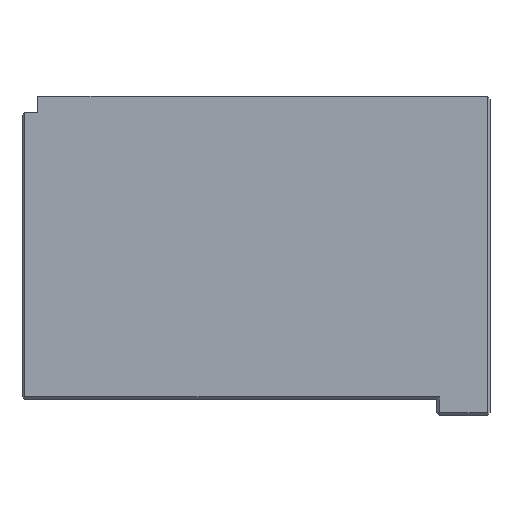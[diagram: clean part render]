
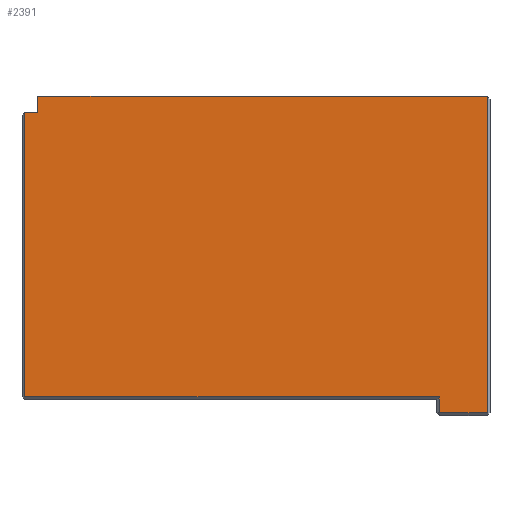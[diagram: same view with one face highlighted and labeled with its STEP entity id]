
A CAD part, front view. The second image highlights one B-rep face of the part: STEP entity #2391.
In plain terms, the highlighted planar face has unit normal (0, -1, 0).
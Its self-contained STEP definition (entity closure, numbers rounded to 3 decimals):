
#100 = LINE ( 'NONE', #4932, #5109 ) ;
#120 = VECTOR ( 'NONE', #1630, 1000. ) ;
#203 = LINE ( 'NONE', #1818, #120 ) ;
#285 = CARTESIAN_POINT ( 'NONE',  ( -42.5, -35., 30. ) ) ;
#320 = VECTOR ( 'NONE', #4150, 1000. ) ;
#454 = LINE ( 'NONE', #2699, #320 ) ;
#748 = VECTOR ( 'NONE', #2327, 1000. ) ;
#863 = LINE ( 'NONE', #2310, #748 ) ;
#1240 = VERTEX_POINT ( 'NONE', #3944 ) ;
#1248 = VECTOR ( 'NONE', #2724, 1000. ) ;
#1305 = VECTOR ( 'NONE', #2827, 1000. ) ;
#1344 = CARTESIAN_POINT ( 'NONE',  ( -45., -35., 27. ) ) ;
#1355 = LINE ( 'NONE', #3528, #1305 ) ;
#1423 = LINE ( 'NONE', #2181, #1248 ) ;
#1491 = VERTEX_POINT ( 'NONE', #4492 ) ;
#1520 = VERTEX_POINT ( 'NONE', #4303 ) ;
#1630 = DIRECTION ( 'NONE',  ( 0., 0., -1. ) ) ;
#1652 = VERTEX_POINT ( 'NONE', #2241 ) ;
#1781 = VERTEX_POINT ( 'NONE', #285 ) ;
#1818 = CARTESIAN_POINT ( 'NONE',  ( -45., -35., 30. ) ) ;
#1910 = DIRECTION ( 'NONE',  ( 0., 0., 1. ) ) ;
#1972 = VERTEX_POINT ( 'NONE', #1344 ) ;
#1996 = CARTESIAN_POINT ( 'NONE',  ( 33., -35., -26.5 ) ) ;
#2181 = CARTESIAN_POINT ( 'NONE',  ( 42., -35., 30. ) ) ;
#2199 = PLANE ( 'NONE',  #3396 ) ;
#2241 = CARTESIAN_POINT ( 'NONE',  ( 42., -35., 30. ) ) ;
#2310 = CARTESIAN_POINT ( 'NONE',  ( -42.5, -35., 30. ) ) ;
#2314 = EDGE_CURVE ( 'NONE', #1781, #3701, #4225, .T. ) ;
#2327 = DIRECTION ( 'NONE',  ( 1., 0., 0. ) ) ;
#2361 = CARTESIAN_POINT ( 'NONE',  ( -42.5, -35., 30. ) ) ;
#2367 = ORIENTED_EDGE ( 'NONE', *, *, #3077, .T. ) ;
#2391 = ADVANCED_FACE ( 'NONE', ( #3985 ), #2199, .F. ) ;
#2421 = ORIENTED_EDGE ( 'NONE', *, *, #3117, .T. ) ;
#2465 = ORIENTED_EDGE ( 'NONE', *, *, #3258, .F. ) ;
#2494 = ORIENTED_EDGE ( 'NONE', *, *, #2314, .T. ) ;
#2527 = ORIENTED_EDGE ( 'NONE', *, *, #3378, .F. ) ;
#2590 = VERTEX_POINT ( 'NONE', #1996 ) ;
#2699 = CARTESIAN_POINT ( 'NONE',  ( -45.5, -35., 27. ) ) ;
#2724 = DIRECTION ( 'NONE',  ( 0., 0., 1. ) ) ;
#2777 = ORIENTED_EDGE ( 'NONE', *, *, #3410, .T. ) ;
#2817 = ORIENTED_EDGE ( 'NONE', *, *, #3493, .T. ) ;
#2827 = DIRECTION ( 'NONE',  ( 1., 0., 0. ) ) ;
#2868 = ORIENTED_EDGE ( 'NONE', *, *, #3531, .T. ) ;
#3077 = EDGE_CURVE ( 'NONE', #1520, #1491, #1355, .T. ) ;
#3117 = EDGE_CURVE ( 'NONE', #1491, #1652, #1423, .T. ) ;
#3200 = CARTESIAN_POINT ( 'NONE',  ( -42.5, -35., 30. ) ) ;
#3258 = EDGE_CURVE ( 'NONE', #1781, #1652, #863, .T. ) ;
#3378 = EDGE_CURVE ( 'NONE', #1972, #3701, #454, .T. ) ;
#3396 = AXIS2_PLACEMENT_3D ( 'NONE', #2361, #3643, #1910 ) ;
#3410 = EDGE_CURVE ( 'NONE', #1972, #1240, #203, .T. ) ;
#3454 = CARTESIAN_POINT ( 'NONE',  ( -42.5, -35., 27. ) ) ;
#3493 = EDGE_CURVE ( 'NONE', #1240, #2590, #100, .T. ) ;
#3528 = CARTESIAN_POINT ( 'NONE',  ( 42.5, -35., -29.5 ) ) ;
#3531 = EDGE_CURVE ( 'NONE', #2590, #1520, #5084, .T. ) ;
#3541 = DIRECTION ( 'NONE',  ( 0., 0., -1. ) ) ;
#3624 = EDGE_LOOP ( 'NONE', ( #2367, #2421, #2465, #2494, #2527, #2777, #2817, #2868 ) ) ;
#3643 = DIRECTION ( 'NONE',  ( 0., 1., 0. ) ) ;
#3701 = VERTEX_POINT ( 'NONE', #3454 ) ;
#3866 = CARTESIAN_POINT ( 'NONE',  ( 33., -35., -30. ) ) ;
#3944 = CARTESIAN_POINT ( 'NONE',  ( -45., -35., -26.5 ) ) ;
#3985 = FACE_OUTER_BOUND ( 'NONE', #3624, .T. ) ;
#3997 = DIRECTION ( 'NONE',  ( 0., 0., -1. ) ) ;
#4150 = DIRECTION ( 'NONE',  ( 1., 0., 0. ) ) ;
#4225 = LINE ( 'NONE', #3200, #4366 ) ;
#4303 = CARTESIAN_POINT ( 'NONE',  ( 33., -35., -29.5 ) ) ;
#4366 = VECTOR ( 'NONE', #3541, 1000. ) ;
#4492 = CARTESIAN_POINT ( 'NONE',  ( 42., -35., -29.5 ) ) ;
#4587 = DIRECTION ( 'NONE',  ( 1., 0., 0. ) ) ;
#4932 = CARTESIAN_POINT ( 'NONE',  ( -42.5, -35., -26.5 ) ) ;
#5036 = VECTOR ( 'NONE', #3997, 1000. ) ;
#5084 = LINE ( 'NONE', #3866, #5036 ) ;
#5109 = VECTOR ( 'NONE', #4587, 1000. ) ;
